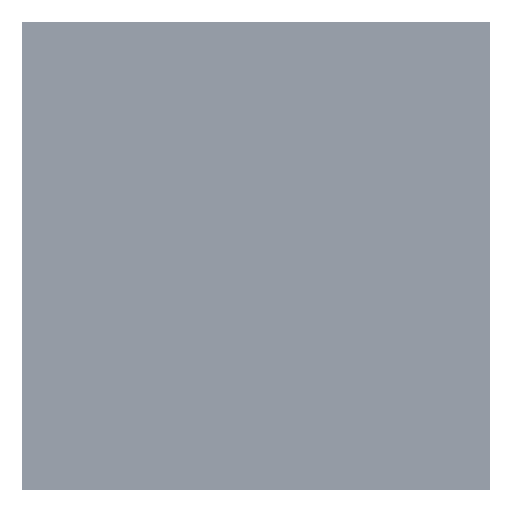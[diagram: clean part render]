
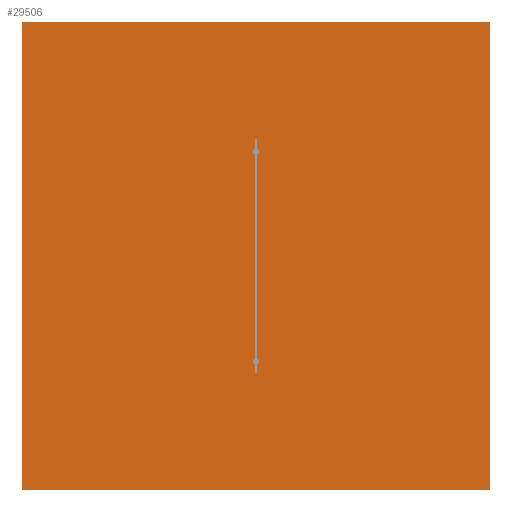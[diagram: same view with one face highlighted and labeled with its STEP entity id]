
A CAD part, front view. The second image highlights one B-rep face of the part: STEP entity #29506.
In plain terms, the highlighted planar face has unit normal (0, -1, 0).
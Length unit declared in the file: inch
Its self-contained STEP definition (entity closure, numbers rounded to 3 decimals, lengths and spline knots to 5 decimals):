
#175 = ORIENTED_EDGE ( 'NONE', *, *, #13167, .F. ) ;
#7095 = VERTEX_POINT ( 'NONE', #30640 ) ;
#7166 = DIRECTION ( 'NONE',  ( 0., 1., 0. ) ) ;
#7602 = EDGE_CURVE ( 'NONE', #11952, #30870, #24855, .T. ) ;
#9340 = DIRECTION ( 'NONE',  ( 0., 0., 1. ) ) ;
#9546 = CARTESIAN_POINT ( 'NONE',  ( -72., 0., 72. ) ) ;
#10145 = DIRECTION ( 'NONE',  ( -1., 0., 0. ) ) ;
#11794 = CARTESIAN_POINT ( 'NONE',  ( -72., 0., -72. ) ) ;
#11926 = ORIENTED_EDGE ( 'NONE', *, *, #7602, .F. ) ;
#11952 = VERTEX_POINT ( 'NONE', #11794 ) ;
#12713 = VERTEX_POINT ( 'NONE', #17133 ) ;
#12907 = VECTOR ( 'NONE', #10145, 39.37008 ) ;
#13167 = EDGE_CURVE ( 'NONE', #12713, #11952, #13267, .T. ) ;
#13267 = LINE ( 'NONE', #22648, #12907 ) ;
#13324 = EDGE_CURVE ( 'NONE', #7095, #12713, #19161, .T. ) ;
#15885 = AXIS2_PLACEMENT_3D ( 'NONE', #26923, #7166, #9340 ) ;
#17020 = DIRECTION ( 'NONE',  ( 1., 0., 0. ) ) ;
#17133 = CARTESIAN_POINT ( 'NONE',  ( 72., 0., -72. ) ) ;
#17181 = CARTESIAN_POINT ( 'NONE',  ( 72., 0., 72. ) ) ;
#18443 = EDGE_CURVE ( 'NONE', #30870, #7095, #24133, .T. ) ;
#19161 = LINE ( 'NONE', #17181, #28919 ) ;
#19592 = DIRECTION ( 'NONE',  ( 0., 0., 1. ) ) ;
#20887 = EDGE_LOOP ( 'NONE', ( #11926, #175, #23198, #30500 ) ) ;
#21666 = CARTESIAN_POINT ( 'NONE',  ( -72., 0., 72. ) ) ;
#22648 = CARTESIAN_POINT ( 'NONE',  ( 72., 0., -72. ) ) ;
#23198 = ORIENTED_EDGE ( 'NONE', *, *, #13324, .F. ) ;
#23922 = VECTOR ( 'NONE', #17020, 39.37008 ) ;
#24133 = LINE ( 'NONE', #29496, #23922 ) ;
#24438 = DIRECTION ( 'NONE',  ( 0., 0., -1. ) ) ;
#24855 = LINE ( 'NONE', #9546, #30660 ) ;
#26923 = CARTESIAN_POINT ( 'NONE',  ( 0., 0., 0. ) ) ;
#28919 = VECTOR ( 'NONE', #24438, 39.37008 ) ;
#29048 = FACE_OUTER_BOUND ( 'NONE', #20887, .T. ) ;
#29207 = PLANE ( 'NONE',  #15885 ) ;
#29496 = CARTESIAN_POINT ( 'NONE',  ( 72., 0., 72. ) ) ;
#29506 = ADVANCED_FACE ( 'NONE', ( #29048 ), #29207, .F. ) ;
#30500 = ORIENTED_EDGE ( 'NONE', *, *, #18443, .F. ) ;
#30640 = CARTESIAN_POINT ( 'NONE',  ( 72., 0., 72. ) ) ;
#30660 = VECTOR ( 'NONE', #19592, 39.37008 ) ;
#30870 = VERTEX_POINT ( 'NONE', #21666 ) ;
